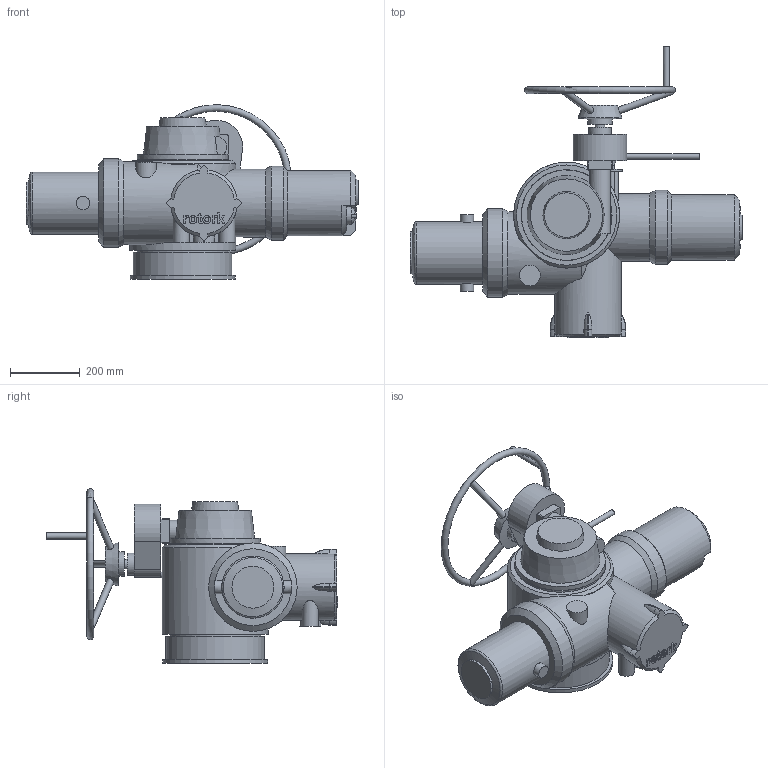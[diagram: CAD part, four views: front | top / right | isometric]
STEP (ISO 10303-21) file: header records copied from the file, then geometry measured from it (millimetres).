
FILE_DESCRIPTION( ( 'Unknown' ), '1' );
FILE_NAME( 'S:/System/Symlibrary/Actuators-Web/IQ/IQ40_SSHW-1.stp', 'May 2003', ( 'Paul Exton' ), ( 'Rotork Controls Ltd' ), 'XStep 1.0', 'Solid Edge V12 (12.00.05.02)', ' ' );
FILE_SCHEMA( ( 'automotive_design' ) );
Length unit declared in the file: millimetre
Products named in the file (1): 1
Bounding box: 949.7 x 833.18 x 499.41 mm (x, y, z)
Volume: 58819675.1 mm3; surface area: 1479044.7 mm2
Topology: 1 solids, 1 shells, 300 faces, 748 edges, 490 vertices
Faces by surface type: plane 143, cylinder 86, extrusion 33, cone 20, torus 15, bspline 2, sphere 1
Full cylindrical faces by diameter (mm): 14 x8, 16 x2, 17.5 x1, 19.04 x3, 27 x1, 38 x2, 50.5 x2, 59 x1, 60 x1, 61 x2, 63.5 x1, 70 x1, 120 x1, 148 x1, 178 x1, 187 x1, 191 x1, 194 x1, 212 x1, 237 x1, 253 x1, 259 x1, 260 x2, 282 x1, 300 x1, 303 x1
Entity records: 11058 total; most frequent: CARTESIAN_POINT 4467, ORIENTED_EDGE 1324, DIRECTION 1241, EDGE_CURVE 662, VERTEX_POINT 464, AXIS2_PLACEMENT_3D 456, EDGE_LOOP 400, FACE_OUTER_BOUND 341
